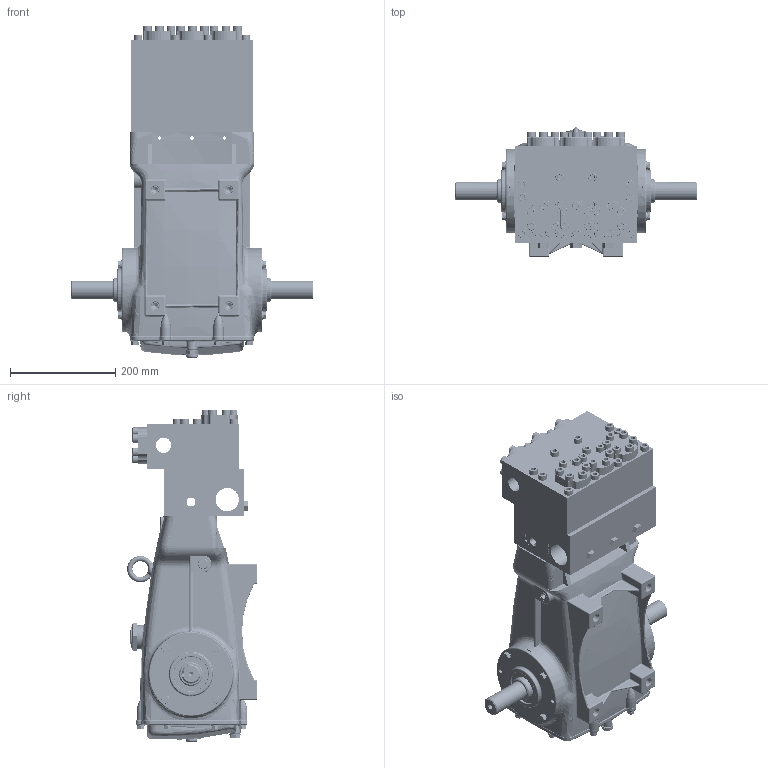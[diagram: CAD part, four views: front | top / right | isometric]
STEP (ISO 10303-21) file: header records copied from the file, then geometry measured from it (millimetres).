
FILE_DESCRIPTION (( 'STEP AP214' ), '1' );
FILE_NAME ('3801.STEP', '2012-12-04T07:31:09', ( '' ), ( '' ), 'SwSTEP 2.0', 'SolidWorks 2012', '' );
FILE_SCHEMA (( 'AUTOMOTIVE_DESIGN' ));
Length unit declared in the file: millimetre
Products named in the file (1): 3801
Bounding box: 460 x 246.1 x 630 mm (x, y, z)
Volume: 10791777.6 mm3; surface area: 1776124 mm2
Topology: 3 solids, 116 shells, 6665 faces, 16053 edges, 9990 vertices
Faces by surface type: plane 2924, cylinder 1818, bspline 929, cone 483, torus 475, sphere 36
Entity records: 291081 total; most frequent: CARTESIAN_POINT 86197, ORIENTED_EDGE 31788, DIRECTION 29886, EDGE_CURVE 15894, AXIS2_PLACEMENT_3D 10849, VERTEX_POINT 9979, LINE 8188, VECTOR 8188
